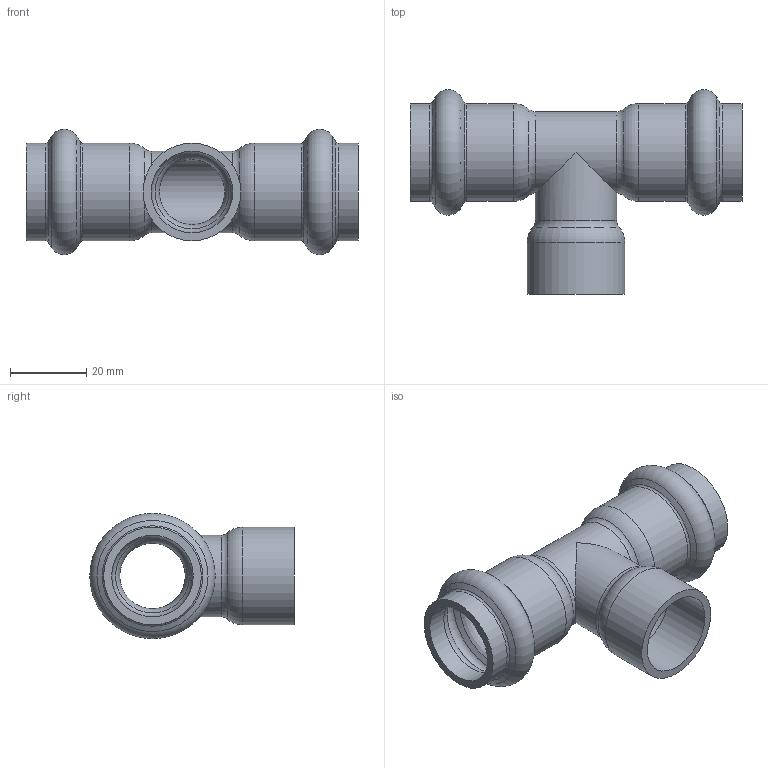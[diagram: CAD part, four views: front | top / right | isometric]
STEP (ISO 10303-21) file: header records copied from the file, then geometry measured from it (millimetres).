
FILE_DESCRIPTION(/* description */ ('VIC TEE RED. BRANCH STYLE P588 (P x P x F)','CAx-IF Rec.Pracs.---Representation and Presentation of Product Manufacturing Information (PMI)---4.0---2014-10-13'),/* implementation_level */ '2;1');
FILE_NAME(/* name */ 'C:\Users\Vjadhav\AppData\Roaming\Autodesk\ApplicationPlugins\Back Up\Victaulic_SS-Vic-Press-TP 304_Tee Threaded_Style P588 (VPxFPT)\Victaulic_SS-Vic-Press-TP 304_Tee Threaded_Style P588 (VPxFPT)_0.50x0.50 (15x15).stp',/* time_stamp */ '2020-08-12T18:49:33+05:00',/* author */ ('cgray'),/* organization */ ('Victaulic'),/* preprocessor_version */ 'ST-DEVELOPER v17.2',/* originating_system */ 'Autodesk Inventor 2019',/* authorisation */ '');
FILE_SCHEMA (('AP242_MANAGED_MODEL_BASED_3D_ENGINEERING_MIM_LF { 1 0 10303 442 1 1 4 }'));
Length unit declared in the file: inch
Products named in the file (1): P588-0.5x0.5
Bounding box: 86.87 x 53.49 x 32.82 mm (x, y, z)
Volume: 18207.7 mm3; surface area: 17727.2 mm2
Topology: 1 solids, 1 shells, 49 faces, 184 edges, 136 vertices
Faces by surface type: torus 24, cylinder 14, cone 8, plane 3
Full cylindrical faces by diameter (mm): 17.12 x2, 21.336 x7, 25.552 x5
Entity records: 2307 total; most frequent: DIRECTION 470, CARTESIAN_POINT 387, ORIENTED_EDGE 368, AXIS2_PLACEMENT_3D 223, EDGE_CURVE 184, CIRCLE 152, VERTEX_POINT 136, EDGE_LOOP 52
